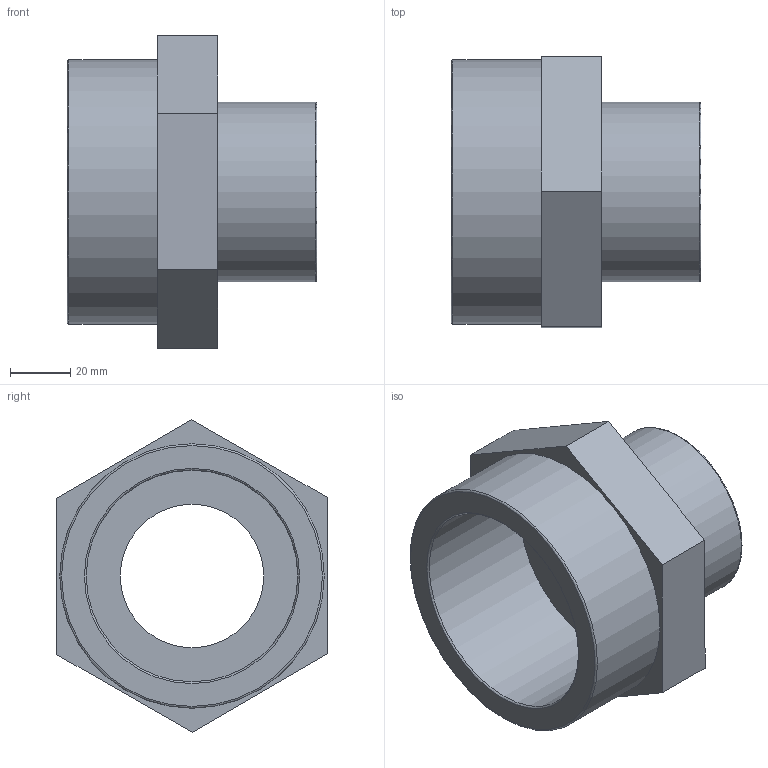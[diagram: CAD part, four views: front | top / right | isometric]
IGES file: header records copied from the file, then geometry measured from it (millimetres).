
Global section: file name: 051601030020.ipt; native system: Autodesk Inventor 2015; preprocessor: unknown; author: KIM; date: 20171207.165309; units: millimetre
Bounding box: 83 x 90.19 x 103.92 mm (x, y, z)
Volume: 175092.7 mm3; surface area: 46461.3 mm2
Topology: 1 solids, 1 shells, 19 faces, 50 edges, 36 vertices
Faces by surface type: plane 11, revolution 6, cylinder 2
Full cylindrical faces by diameter (mm): 59.614 x1, 87.884 x1
